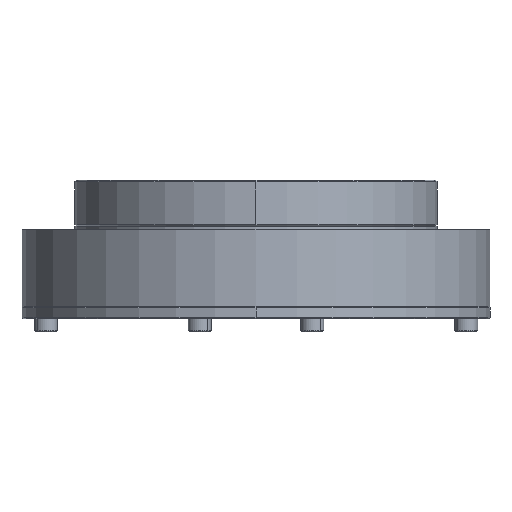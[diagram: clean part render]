
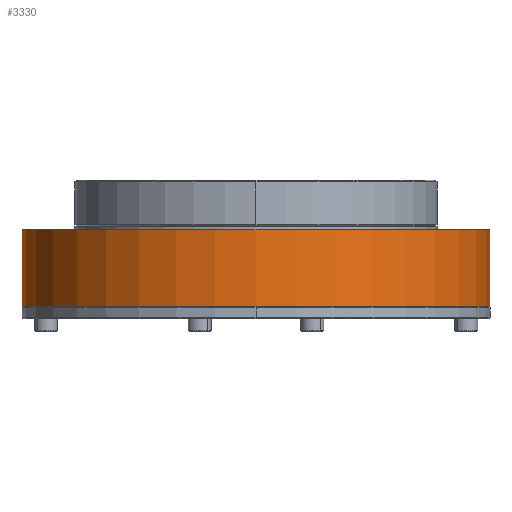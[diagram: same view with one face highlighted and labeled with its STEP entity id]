
A CAD part, left-side view. The second image highlights one B-rep face of the part: STEP entity #3330.
In plain terms, the highlighted cylindrical face has radius 71 mm (diameter 142 mm), a partial arc.
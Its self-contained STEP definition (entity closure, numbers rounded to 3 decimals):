
#1568 = ORIENTED_EDGE ( 'NONE', *, *, #5260, .F. ) ;
#2141 = CARTESIAN_POINT ( 'NONE',  ( -2.001, 67.999, 80.1 ) ) ;
#2236 = DIRECTION ( 'NONE',  ( 0., 0., 1. ) ) ;
#2597 = CARTESIAN_POINT ( 'NONE',  ( -2.001, -3.001, 80.1 ) ) ;
#2816 = DIRECTION ( 'NONE',  ( 0., 0., -1. ) ) ;
#2895 = DIRECTION ( 'NONE',  ( 0., -1., 0. ) ) ;
#3145 = CARTESIAN_POINT ( 'NONE',  ( -2.001, -3.001, 80.1 ) ) ;
#3228 = DIRECTION ( 'NONE',  ( 0., 0., 1. ) ) ;
#3330 = ADVANCED_FACE ( 'NONE', ( #10041 ), #11909, .T. ) ;
#4102 = VECTOR ( 'NONE', #11245, 1000. ) ;
#4146 = ORIENTED_EDGE ( 'NONE', *, *, #5087, .F. ) ;
#4245 = ORIENTED_EDGE ( 'NONE', *, *, #5973, .T. ) ;
#4507 = AXIS2_PLACEMENT_3D ( 'NONE', #2597, #2816, #2895 ) ;
#4516 = CIRCLE ( 'NONE', #7105, 71. ) ;
#5023 = CIRCLE ( 'NONE', #4507, 71. ) ;
#5087 = EDGE_CURVE ( 'NONE', #9784, #5248, #9029, .T. ) ;
#5169 = VERTEX_POINT ( 'NONE', #10292 ) ;
#5248 = VERTEX_POINT ( 'NONE', #12397 ) ;
#5260 = EDGE_CURVE ( 'NONE', #5248, #5169, #4516, .T. ) ;
#5973 = EDGE_CURVE ( 'NONE', #6586, #5169, #9562, .T. ) ;
#6098 = CARTESIAN_POINT ( 'NONE',  ( -2.001, 67.999, 80.1 ) ) ;
#6475 = EDGE_CURVE ( 'NONE', #6586, #9784, #5023, .T. ) ;
#6586 = VERTEX_POINT ( 'NONE', #7724 ) ;
#7105 = AXIS2_PLACEMENT_3D ( 'NONE', #10986, #10859, #10827 ) ;
#7724 = CARTESIAN_POINT ( 'NONE',  ( -2.001, -74.001, 80.1 ) ) ;
#8592 = VECTOR ( 'NONE', #2236, 1000. ) ;
#9029 = LINE ( 'NONE', #2141, #8592 ) ;
#9562 = LINE ( 'NONE', #12251, #4102 ) ;
#9784 = VERTEX_POINT ( 'NONE', #6098 ) ;
#10041 = FACE_OUTER_BOUND ( 'NONE', #10871, .T. ) ;
#10292 = CARTESIAN_POINT ( 'NONE',  ( -2.001, -74.001, 103.5 ) ) ;
#10827 = DIRECTION ( 'NONE',  ( 0., 1., 0. ) ) ;
#10859 = DIRECTION ( 'NONE',  ( 0., 0., 1. ) ) ;
#10871 = EDGE_LOOP ( 'NONE', ( #11056, #4245, #1568, #4146 ) ) ;
#10986 = CARTESIAN_POINT ( 'NONE',  ( -2.001, -3.001, 103.5 ) ) ;
#11056 = ORIENTED_EDGE ( 'NONE', *, *, #6475, .F. ) ;
#11245 = DIRECTION ( 'NONE',  ( 0., 0., 1. ) ) ;
#11859 = DIRECTION ( 'NONE',  ( 0., 1., 0. ) ) ;
#11909 = CYLINDRICAL_SURFACE ( 'NONE', #12411, 71. ) ;
#12251 = CARTESIAN_POINT ( 'NONE',  ( -2.001, -74.001, 80.1 ) ) ;
#12397 = CARTESIAN_POINT ( 'NONE',  ( -2.001, 67.999, 103.5 ) ) ;
#12411 = AXIS2_PLACEMENT_3D ( 'NONE', #3145, #3228, #11859 ) ;
